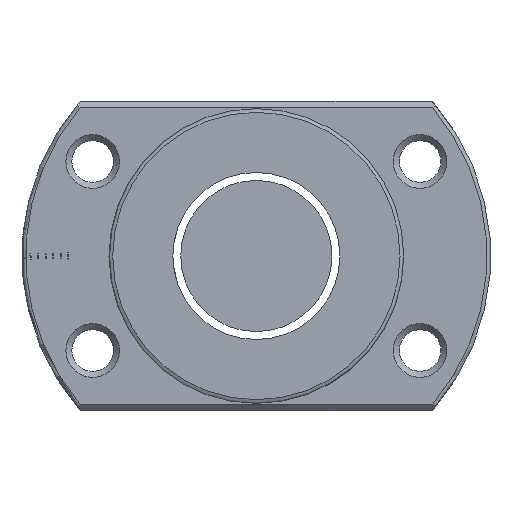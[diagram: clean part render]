
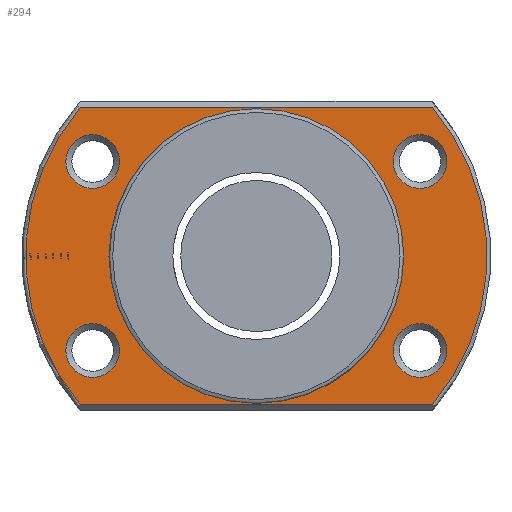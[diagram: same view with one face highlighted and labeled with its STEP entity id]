
A CAD part, left-side view. The second image highlights one B-rep face of the part: STEP entity #294.
In plain terms, the highlighted planar face has unit normal (-1, 0, 0).
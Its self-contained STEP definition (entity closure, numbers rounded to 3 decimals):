
#53 = AXIS2_PLACEMENT_3D ( 'NONE', #732, #2602, #1431 ) ;
#66 = CARTESIAN_POINT ( 'NONE',  ( -35., 21.651, -8.95 ) ) ;
#81 = EDGE_CURVE ( 'NONE', #1779, #2990, #1795, .T. ) ;
#96 = EDGE_LOOP ( 'NONE', ( #2913 ) ) ;
#168 = EDGE_CURVE ( 'NONE', #2170, #2170, #2544, .T. ) ;
#181 = CARTESIAN_POINT ( 'NONE',  ( -35., -23.284, -19.7 ) ) ;
#190 = EDGE_CURVE ( 'NONE', #1641, #1641, #1360, .T. ) ;
#278 = EDGE_LOOP ( 'NONE', ( #1538 ) ) ;
#286 = CARTESIAN_POINT ( 'NONE',  ( -35., 21.651, -12.5 ) ) ;
#294 = ADVANCED_FACE ( 'NONE', ( #976, #1690, #2632, #961, #1642, #2584 ), #1886, .T. ) ;
#339 = VECTOR ( 'NONE', #758, 1000. ) ;
#393 = CIRCLE ( 'NONE', #2158, 3.55 ) ;
#468 = DIRECTION ( 'NONE',  ( 0., 0., 1. ) ) ;
#479 = DIRECTION ( 'NONE',  ( 0., 0., 1. ) ) ;
#503 = DIRECTION ( 'NONE',  ( 1., 0., 0. ) ) ;
#505 = EDGE_CURVE ( 'NONE', #2131, #1779, #2768, .T. ) ;
#518 = CARTESIAN_POINT ( 'NONE',  ( -35., 0., 0. ) ) ;
#598 = EDGE_LOOP ( 'NONE', ( #800 ) ) ;
#630 = CARTESIAN_POINT ( 'NONE',  ( -35., 0., -19.5 ) ) ;
#732 = CARTESIAN_POINT ( 'NONE',  ( -35., 31., 0. ) ) ;
#738 = CARTESIAN_POINT ( 'NONE',  ( -35., 0., 0. ) ) ;
#749 = CARTESIAN_POINT ( 'NONE',  ( -35., -23.284, 19.7 ) ) ;
#758 = DIRECTION ( 'NONE',  ( 0., 1., 0. ) ) ;
#777 = CARTESIAN_POINT ( 'NONE',  ( -35., -21.651, 16.05 ) ) ;
#797 = DIRECTION ( 'NONE',  ( 0., 0., 1. ) ) ;
#800 = ORIENTED_EDGE ( 'NONE', *, *, #190, .T. ) ;
#807 = EDGE_CURVE ( 'NONE', #2990, #1470, #2378, .T. ) ;
#876 = ORIENTED_EDGE ( 'NONE', *, *, #807, .T. ) ;
#919 = CARTESIAN_POINT ( 'NONE',  ( -35., -21.651, -12.5 ) ) ;
#933 = CARTESIAN_POINT ( 'NONE',  ( -35., 23.284, 19.7 ) ) ;
#950 = ORIENTED_EDGE ( 'NONE', *, *, #505, .T. ) ;
#961 = FACE_BOUND ( 'NONE', #598, .T. ) ;
#976 = FACE_BOUND ( 'NONE', #96, .T. ) ;
#982 = CIRCLE ( 'NONE', #1365, 3.55 ) ;
#1005 = CARTESIAN_POINT ( 'NONE',  ( -35., 21.651, 16.05 ) ) ;
#1017 = VERTEX_POINT ( 'NONE', #777 ) ;
#1029 = CIRCLE ( 'NONE', #1079, 19.5 ) ;
#1030 = EDGE_CURVE ( 'NONE', #1470, #2131, #1267, .T. ) ;
#1052 = CARTESIAN_POINT ( 'NONE',  ( -35., 23.284, -19.7 ) ) ;
#1058 = EDGE_LOOP ( 'NONE', ( #2594 ) ) ;
#1079 = AXIS2_PLACEMENT_3D ( 'NONE', #738, #503, #1436 ) ;
#1126 = AXIS2_PLACEMENT_3D ( 'NONE', #286, #1162, #1220 ) ;
#1162 = DIRECTION ( 'NONE',  ( 1., 0., 0. ) ) ;
#1220 = DIRECTION ( 'NONE',  ( 0., 0., 1. ) ) ;
#1235 = DIRECTION ( 'NONE',  ( 1., 0., 0. ) ) ;
#1253 = DIRECTION ( 'NONE',  ( -1., 0., 0. ) ) ;
#1267 = CIRCLE ( 'NONE', #2494, 30.5 ) ;
#1353 = CARTESIAN_POINT ( 'NONE',  ( -35., -21.651, 12.5 ) ) ;
#1360 = CIRCLE ( 'NONE', #1846, 3.55 ) ;
#1365 = AXIS2_PLACEMENT_3D ( 'NONE', #919, #1841, #2791 ) ;
#1431 = DIRECTION ( 'NONE',  ( 0., 0., 1. ) ) ;
#1436 = DIRECTION ( 'NONE',  ( 0., 0., -1. ) ) ;
#1470 = VERTEX_POINT ( 'NONE', #933 ) ;
#1488 = CARTESIAN_POINT ( 'NONE',  ( -35., -21.651, -8.95 ) ) ;
#1538 = ORIENTED_EDGE ( 'NONE', *, *, #2881, .T. ) ;
#1641 = VERTEX_POINT ( 'NONE', #1005 ) ;
#1642 = FACE_BOUND ( 'NONE', #1058, .T. ) ;
#1690 = FACE_BOUND ( 'NONE', #2261, .T. ) ;
#1746 = VECTOR ( 'NONE', #2521, 1000. ) ;
#1779 = VERTEX_POINT ( 'NONE', #181 ) ;
#1795 = CIRCLE ( 'NONE', #2442, 30.5 ) ;
#1841 = DIRECTION ( 'NONE',  ( 1., 0., 0. ) ) ;
#1846 = AXIS2_PLACEMENT_3D ( 'NONE', #2863, #1902, #2336 ) ;
#1886 = PLANE ( 'NONE',  #53 ) ;
#1889 = DIRECTION ( 'NONE',  ( -1., 0., 0. ) ) ;
#1902 = DIRECTION ( 'NONE',  ( 1., 0., 0. ) ) ;
#2131 = VERTEX_POINT ( 'NONE', #1052 ) ;
#2150 = CARTESIAN_POINT ( 'NONE',  ( -35., 31., 19.7 ) ) ;
#2158 = AXIS2_PLACEMENT_3D ( 'NONE', #1353, #1235, #479 ) ;
#2170 = VERTEX_POINT ( 'NONE', #66 ) ;
#2221 = EDGE_LOOP ( 'NONE', ( #950, #2461, #876, #2763 ) ) ;
#2241 = CARTESIAN_POINT ( 'NONE',  ( -35., 31., -19.7 ) ) ;
#2261 = EDGE_LOOP ( 'NONE', ( #2974 ) ) ;
#2336 = DIRECTION ( 'NONE',  ( 0., 0., 1. ) ) ;
#2378 = LINE ( 'NONE', #2150, #339 ) ;
#2442 = AXIS2_PLACEMENT_3D ( 'NONE', #2693, #1253, #797 ) ;
#2461 = ORIENTED_EDGE ( 'NONE', *, *, #81, .T. ) ;
#2494 = AXIS2_PLACEMENT_3D ( 'NONE', #518, #1889, #468 ) ;
#2521 = DIRECTION ( 'NONE',  ( 0., -1., 0. ) ) ;
#2544 = CIRCLE ( 'NONE', #1126, 3.55 ) ;
#2584 = FACE_OUTER_BOUND ( 'NONE', #2221, .T. ) ;
#2594 = ORIENTED_EDGE ( 'NONE', *, *, #2717, .T. ) ;
#2602 = DIRECTION ( 'NONE',  ( -1., 0., 0. ) ) ;
#2632 = FACE_BOUND ( 'NONE', #278, .T. ) ;
#2644 = VERTEX_POINT ( 'NONE', #630 ) ;
#2693 = CARTESIAN_POINT ( 'NONE',  ( -35., 0., 0. ) ) ;
#2717 = EDGE_CURVE ( 'NONE', #2644, #2644, #1029, .T. ) ;
#2754 = EDGE_CURVE ( 'NONE', #2875, #2875, #982, .T. ) ;
#2763 = ORIENTED_EDGE ( 'NONE', *, *, #1030, .T. ) ;
#2768 = LINE ( 'NONE', #2241, #1746 ) ;
#2791 = DIRECTION ( 'NONE',  ( 0., 0., 1. ) ) ;
#2863 = CARTESIAN_POINT ( 'NONE',  ( -35., 21.651, 12.5 ) ) ;
#2875 = VERTEX_POINT ( 'NONE', #1488 ) ;
#2881 = EDGE_CURVE ( 'NONE', #1017, #1017, #393, .T. ) ;
#2913 = ORIENTED_EDGE ( 'NONE', *, *, #168, .T. ) ;
#2974 = ORIENTED_EDGE ( 'NONE', *, *, #2754, .T. ) ;
#2990 = VERTEX_POINT ( 'NONE', #749 ) ;
